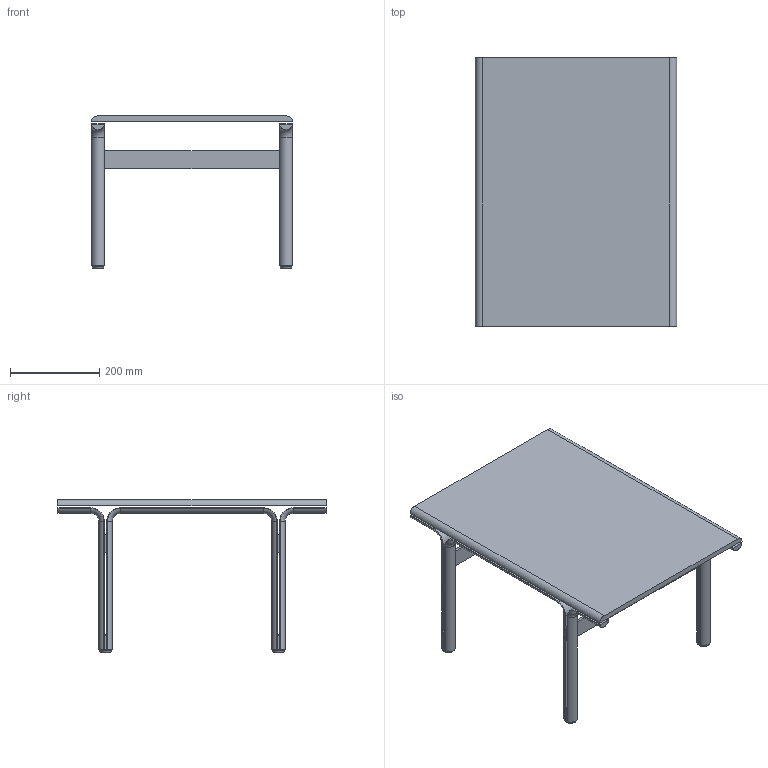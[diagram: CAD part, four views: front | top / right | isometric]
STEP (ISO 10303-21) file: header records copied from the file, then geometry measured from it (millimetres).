
FILE_DESCRIPTION(/* description */ (''),/* implementation_level */ '2;1');
FILE_NAME(/* name */ 'Union_Side table-3D.step',/* time_stamp */ '2025-11-07T16:45:12+01:00',/* author */ (''),/* organization */ (''),/* preprocessor_version */ 'ST-DEVELOPER v20.1',/* originating_system */ 'Autodesk Translation Framework v14.17.0.0',/* authorisation */ '');
FILE_SCHEMA (('AUTOMOTIVE_DESIGN { 1 0 10303 214 3 1 1 }'));
Length unit declared in the file: millimetre
Products named in the file (14): small_coffee_table; outer_back_right; foot_back_right; horizontal_back; central_leg_left; tabletop_solid_edge_left; outer_back_right(Mirror); foot_back_right(Mirror); horizontal_back(Mirror); outer_back_right(Mirror) (1); foot_back_right(Mirror) (1); central_leg_left(Mirror); outer_back_right(Mirror)(Mirror); foot_back_right(Mirror)(Mirror)
Assembly tree (13 placements, depth 2):
  small_coffee_table
    outer_back_right
    foot_back_right
    horizontal_back
    central_leg_left
    tabletop_solid_edge_left
    outer_back_right(Mirror)
    foot_back_right(Mirror)
    horizontal_back(Mirror)
    outer_back_right(Mirror) (1)
    foot_back_right(Mirror) (1)
    central_leg_left(Mirror)
    outer_back_right(Mirror)(Mirror)
    foot_back_right(Mirror)(Mirror)
Bounding box: 450.08 x 600 x 340.35 mm (x, y, z)
Volume: 4653630.6 mm3; surface area: 905575.2 mm2
Topology: 13 solids, 13 shells, 178 faces, 364 edges, 216 vertices
Faces by surface type: plane 70, cylinder 68, torus 40
Full cylindrical faces by diameter (mm): 26 x4
Entity records: 5096 total; most frequent: DIRECTION 958, CARTESIAN_POINT 785, ORIENTED_EDGE 728, AXIS2_PLACEMENT_3D 389, EDGE_CURVE 364, VERTEX_POINT 216, CIRCLE 184, EDGE_LOOP 182
